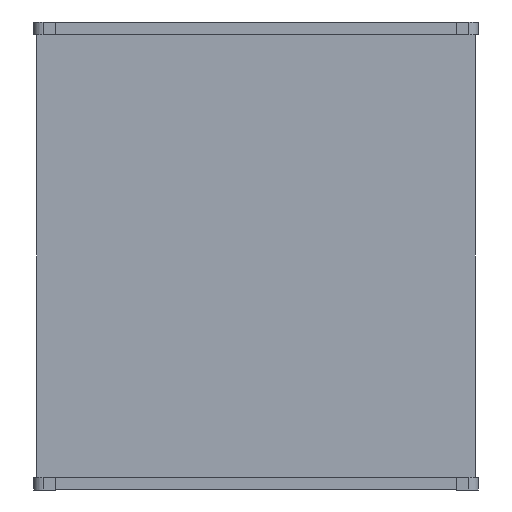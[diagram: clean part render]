
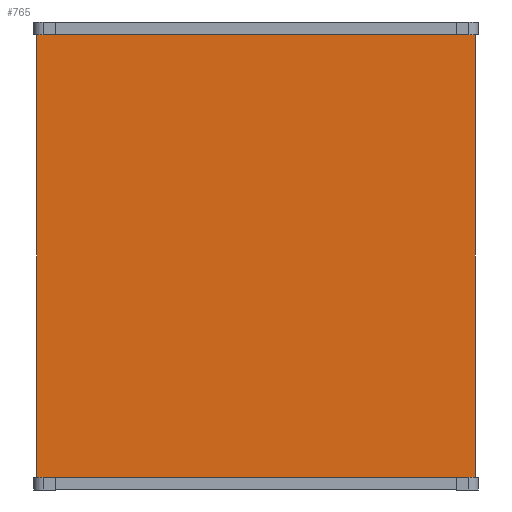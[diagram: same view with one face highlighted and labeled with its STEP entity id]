
A CAD part, front view. The second image highlights one B-rep face of the part: STEP entity #765.
In plain terms, the highlighted planar face has unit normal (0, -1, 0).
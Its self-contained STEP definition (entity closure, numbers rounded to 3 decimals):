
#765=ADVANCED_FACE('',(#1564),#1565,.F.);
#1564=FACE_OUTER_BOUND('',#2383,.T.);
#1565=PLANE('',#2384);
#2383=EDGE_LOOP('',(#4846,#4847,#4848,#4849,#4850,#4851,#4852,#4853,#4854,#4855,#4856,#4857,#4858,#4859,#4860,#4861,#4862,#4863,#4864,#4865,#4866,#4867,#4868,#4869,#4870,#4871,#4872,#4873));
#2384=AXIS2_PLACEMENT_3D('',#4874,#4875,#4876);
#4846=ORIENTED_EDGE('',*,*,#5827,.T.);
#4847=ORIENTED_EDGE('',*,*,#5861,.T.);
#4848=ORIENTED_EDGE('',*,*,#5997,.T.);
#4849=ORIENTED_EDGE('',*,*,#5182,.T.);
#4850=ORIENTED_EDGE('',*,*,#6131,.T.);
#4851=ORIENTED_EDGE('',*,*,#5988,.T.);
#4852=ORIENTED_EDGE('',*,*,#5996,.T.);
#4853=ORIENTED_EDGE('',*,*,#6018,.T.);
#4854=ORIENTED_EDGE('',*,*,#6031,.T.);
#4855=ORIENTED_EDGE('',*,*,#6093,.T.);
#4856=ORIENTED_EDGE('',*,*,#6117,.T.);
#4857=ORIENTED_EDGE('',*,*,#6109,.T.);
#4858=ORIENTED_EDGE('',*,*,#6129,.T.);
#4859=ORIENTED_EDGE('',*,*,#5156,.T.);
#4860=ORIENTED_EDGE('',*,*,#6120,.T.);
#4861=ORIENTED_EDGE('',*,*,#5908,.F.);
#4862=ORIENTED_EDGE('',*,*,#5940,.T.);
#4863=ORIENTED_EDGE('',*,*,#5201,.T.);
#4864=ORIENTED_EDGE('',*,*,#6132,.T.);
#4865=ORIENTED_EDGE('',*,*,#5935,.T.);
#4866=ORIENTED_EDGE('',*,*,#5939,.T.);
#4867=ORIENTED_EDGE('',*,*,#5927,.T.);
#4868=ORIENTED_EDGE('',*,*,#6133,.T.);
#4869=ORIENTED_EDGE('',*,*,#5810,.T.);
#4870=ORIENTED_EDGE('',*,*,#5828,.T.);
#4871=ORIENTED_EDGE('',*,*,#5807,.T.);
#4872=ORIENTED_EDGE('',*,*,#6134,.T.);
#4873=ORIENTED_EDGE('',*,*,#5218,.T.);
#4874=CARTESIAN_POINT('',(0.,-258.96,-442.5));
#4875=DIRECTION('',(0.,1.0,0.0));
#4876=DIRECTION('',(0.,0.,1.0));
#5156=EDGE_CURVE('',#6244,#6242,#6245,.T.);
#5182=EDGE_CURVE('',#6292,#6290,#6293,.T.);
#5201=EDGE_CURVE('',#6327,#6325,#6328,.T.);
#5218=EDGE_CURVE('',#6358,#6356,#6359,.T.);
#5807=EDGE_CURVE('',#7256,#7254,#7257,.T.);
#5810=EDGE_CURVE('',#7260,#7261,#7262,.T.);
#5827=EDGE_CURVE('',#6356,#7288,#7291,.T.);
#5828=EDGE_CURVE('',#7261,#7256,#7292,.T.);
#5861=EDGE_CURVE('',#7288,#7340,#7342,.T.);
#5908=EDGE_CURVE('',#7407,#7409,#7410,.T.);
#5927=EDGE_CURVE('',#7439,#7437,#7440,.T.);
#5935=EDGE_CURVE('',#7453,#7451,#7454,.T.);
#5939=EDGE_CURVE('',#7451,#7439,#7458,.T.);
#5940=EDGE_CURVE('',#7407,#6327,#7459,.T.);
#5988=EDGE_CURVE('',#7520,#7518,#7521,.T.);
#5996=EDGE_CURVE('',#7518,#7530,#7531,.T.);
#5997=EDGE_CURVE('',#7340,#6292,#7532,.T.);
#6018=EDGE_CURVE('',#7530,#7562,#7563,.T.);
#6031=EDGE_CURVE('',#7562,#7580,#7582,.T.);
#6093=EDGE_CURVE('',#7580,#7667,#7668,.T.);
#6109=EDGE_CURVE('',#7691,#7689,#7692,.T.);
#6117=EDGE_CURVE('',#7667,#7691,#7704,.T.);
#6120=EDGE_CURVE('',#6242,#7409,#7707,.T.);
#6129=EDGE_CURVE('',#7689,#6244,#7716,.T.);
#6131=EDGE_CURVE('',#6290,#7520,#7718,.T.);
#6132=EDGE_CURVE('',#6325,#7453,#7719,.T.);
#6133=EDGE_CURVE('',#7437,#7260,#7720,.T.);
#6134=EDGE_CURVE('',#7254,#6358,#7721,.T.);
#6242=VERTEX_POINT('',#7853);
#6244=VERTEX_POINT('',#7855);
#6245=LINE('',#7856,#7857);
#6290=VERTEX_POINT('',#7912);
#6292=VERTEX_POINT('',#7914);
#6293=LINE('',#7915,#7916);
#6325=VERTEX_POINT('',#7955);
#6327=VERTEX_POINT('',#7957);
#6328=LINE('',#7958,#7959);
#6356=VERTEX_POINT('',#7993);
#6358=VERTEX_POINT('',#7995);
#6359=LINE('',#7996,#7997);
#7254=VERTEX_POINT('',#9091);
#7256=VERTEX_POINT('',#9093);
#7257=LINE('',#9094,#9095);
#7260=VERTEX_POINT('',#9098);
#7261=VERTEX_POINT('',#9099);
#7262=LINE('',#9100,#9101);
#7288=VERTEX_POINT('',#9139);
#7291=LINE('',#9143,#9144);
#7292=LINE('',#9145,#9146);
#7340=VERTEX_POINT('',#9215);
#7342=LINE('',#9218,#9219);
#7407=VERTEX_POINT('',#9312);
#7409=VERTEX_POINT('',#9315);
#7410=LINE('',#9316,#9317);
#7437=VERTEX_POINT('',#9357);
#7439=VERTEX_POINT('',#9360);
#7440=LINE('',#9361,#9362);
#7451=VERTEX_POINT('',#9378);
#7453=VERTEX_POINT('',#9380);
#7454=LINE('',#9381,#9382);
#7458=LINE('',#9386,#9387);
#7459=LINE('',#9388,#9389);
#7518=VERTEX_POINT('',#9469);
#7520=VERTEX_POINT('',#9471);
#7521=LINE('',#9472,#9473);
#7530=VERTEX_POINT('',#9484);
#7531=LINE('',#9485,#9486);
#7532=LINE('',#9487,#9488);
#7562=VERTEX_POINT('',#9530);
#7563=LINE('',#9531,#9532);
#7580=VERTEX_POINT('',#9557);
#7582=LINE('',#9560,#9561);
#7667=VERTEX_POINT('',#9683);
#7668=LINE('',#9684,#9685);
#7689=VERTEX_POINT('',#9715);
#7691=VERTEX_POINT('',#9717);
#7692=LINE('',#9718,#9719);
#7704=LINE('',#9733,#9734);
#7707=LINE('',#9739,#9740);
#7716=LINE('',#9751,#9752);
#7718=LINE('',#9754,#9755);
#7719=LINE('',#9756,#9757);
#7720=LINE('',#9758,#9759);
#7721=LINE('',#9760,#9761);
#7853=CARTESIAN_POINT('',(-414.378,-258.96,-23.125));
#7855=CARTESIAN_POINT('',(-414.378,-258.96,-22.225));
#7856=CARTESIAN_POINT('',(-414.378,-258.96,-22.625));
#7857=VECTOR('',#9908,1.0);
#7912=CARTESIAN_POINT('',(414.378,-258.96,-22.225));
#7914=CARTESIAN_POINT('',(414.378,-258.96,-23.125));
#7915=CARTESIAN_POINT('',(414.378,-258.96,-22.625));
#7916=VECTOR('',#9952,1.0);
#7955=CARTESIAN_POINT('',(-414.378,-258.96,-862.775));
#7957=CARTESIAN_POINT('',(-414.378,-258.96,-861.875));
#7958=CARTESIAN_POINT('',(-414.378,-258.96,-862.375));
#7959=VECTOR('',#9984,1.0);
#7993=CARTESIAN_POINT('',(414.378,-258.96,-861.875));
#7995=CARTESIAN_POINT('',(414.378,-258.96,-862.775));
#7996=CARTESIAN_POINT('',(414.378,-258.96,-862.375));
#7997=VECTOR('',#10012,1.0);
#9091=CARTESIAN_POINT('',(405.622,-258.96,-862.775));
#9093=CARTESIAN_POINT('',(405.622,-258.96,-861.875));
#9094=CARTESIAN_POINT('',(405.622,-258.96,-862.375));
#9095=VECTOR('',#10956,1.0);
#9098=CARTESIAN_POINT('',(380.0,-258.96,-862.875));
#9099=CARTESIAN_POINT('',(380.0,-258.96,-861.875));
#9100=CARTESIAN_POINT('',(380.0,-258.96,-658.219));
#9101=VECTOR('',#10960,1.0);
#9139=CARTESIAN_POINT('',(416.0,-258.96,-861.875));
#9143=CARTESIAN_POINT('',(200.25,-258.96,-861.875));
#9144=VECTOR('',#10977,1.0);
#9145=CARTESIAN_POINT('',(200.25,-258.96,-861.875));
#9146=VECTOR('',#10978,1.0);
#9215=CARTESIAN_POINT('',(416.0,-258.96,-23.125));
#9218=CARTESIAN_POINT('',(416.0,-258.96,-442.5));
#9219=VECTOR('',#11010,1.0);
#9312=CARTESIAN_POINT('',(-416.0,-258.96,-861.875));
#9315=CARTESIAN_POINT('',(-416.0,-258.96,-23.125));
#9316=CARTESIAN_POINT('',(-416.0,-258.96,-442.5));
#9317=VECTOR('',#11055,1.0);
#9357=CARTESIAN_POINT('',(-380.0,-258.96,-862.875));
#9360=CARTESIAN_POINT('',(-380.0,-258.96,-861.875));
#9361=CARTESIAN_POINT('',(-380.0,-258.96,-658.219));
#9362=VECTOR('',#11070,1.0);
#9378=CARTESIAN_POINT('',(-405.622,-258.96,-861.875));
#9380=CARTESIAN_POINT('',(-405.622,-258.96,-862.775));
#9381=CARTESIAN_POINT('',(-405.622,-258.96,-862.375));
#9382=VECTOR('',#11079,1.0);
#9386=CARTESIAN_POINT('',(-200.25,-258.96,-861.875));
#9387=VECTOR('',#11086,1.0);
#9388=CARTESIAN_POINT('',(-200.25,-258.96,-861.875));
#9389=VECTOR('',#11087,1.0);
#9469=CARTESIAN_POINT('',(405.622,-258.96,-23.125));
#9471=CARTESIAN_POINT('',(405.622,-258.96,-22.225));
#9472=CARTESIAN_POINT('',(405.622,-258.96,-22.625));
#9473=VECTOR('',#11139,1.0);
#9484=CARTESIAN_POINT('',(380.0,-258.96,-23.125));
#9485=CARTESIAN_POINT('',(200.25,-258.96,-23.125));
#9486=VECTOR('',#11151,1.0);
#9487=CARTESIAN_POINT('',(200.25,-258.96,-23.125));
#9488=VECTOR('',#11152,1.0);
#9530=CARTESIAN_POINT('',(380.0,-258.96,-22.125));
#9531=CARTESIAN_POINT('',(380.0,-258.96,-226.781));
#9532=VECTOR('',#11174,1.0);
#9557=CARTESIAN_POINT('',(-380.0,-258.96,-22.125));
#9560=CARTESIAN_POINT('',(0.,-258.96,-22.125));
#9561=VECTOR('',#11184,1.0);
#9683=CARTESIAN_POINT('',(-380.0,-258.96,-23.125));
#9684=CARTESIAN_POINT('',(-380.0,-258.96,-226.781));
#9685=VECTOR('',#11240,1.0);
#9715=CARTESIAN_POINT('',(-405.622,-258.96,-22.225));
#9717=CARTESIAN_POINT('',(-405.622,-258.96,-23.125));
#9718=CARTESIAN_POINT('',(-405.622,-258.96,-22.625));
#9719=VECTOR('',#11259,1.0);
#9733=CARTESIAN_POINT('',(-200.25,-258.96,-23.125));
#9734=VECTOR('',#11271,1.0);
#9739=CARTESIAN_POINT('',(-200.25,-258.96,-23.125));
#9740=VECTOR('',#11274,1.0);
#9751=CARTESIAN_POINT('',(-200.05,-258.96,-22.225));
#9752=VECTOR('',#11280,1.0);
#9754=CARTESIAN_POINT('',(200.05,-258.96,-22.225));
#9755=VECTOR('',#11281,1.0);
#9756=CARTESIAN_POINT('',(-200.05,-258.96,-862.775));
#9757=VECTOR('',#11282,1.0);
#9758=CARTESIAN_POINT('',(0.,-258.96,-862.875));
#9759=VECTOR('',#11283,1.0);
#9760=CARTESIAN_POINT('',(200.05,-258.96,-862.775));
#9761=VECTOR('',#11284,1.0);
#9908=DIRECTION('',(0.,0.,-1.0));
#9952=DIRECTION('',(0.,0.,1.0));
#9984=DIRECTION('',(0.,0.,-1.0));
#10012=DIRECTION('',(0.,0.,1.0));
#10956=DIRECTION('',(0.,0.,-1.0));
#10960=DIRECTION('',(0.0,0.0,1.0));
#10977=DIRECTION('',(1.0,0.,0.0));
#10978=DIRECTION('',(1.0,0.,0.0));
#11010=DIRECTION('',(0.,0.,1.0));
#11055=DIRECTION('',(0.,0.,1.0));
#11070=DIRECTION('',(0.,0.,-1.0));
#11079=DIRECTION('',(0.,0.,1.0));
#11086=DIRECTION('',(1.0,0.,0.));
#11087=DIRECTION('',(1.0,0.,0.));
#11139=DIRECTION('',(0.,0.,-1.0));
#11151=DIRECTION('',(-1.0,0.,0.0));
#11152=DIRECTION('',(-1.0,0.,0.0));
#11174=DIRECTION('',(0.0,0.0,1.0));
#11184=DIRECTION('',(-1.0,0.,0.));
#11240=DIRECTION('',(0.,0.,-1.0));
#11259=DIRECTION('',(0.,0.,1.0));
#11271=DIRECTION('',(-1.0,0.,0.));
#11274=DIRECTION('',(-1.0,0.,0.));
#11280=DIRECTION('',(-1.0,0.,0.));
#11281=DIRECTION('',(-1.0,0.,0.0));
#11282=DIRECTION('',(1.0,0.,0.));
#11283=DIRECTION('',(1.0,0.,0.));
#11284=DIRECTION('',(1.0,0.,0.0));
